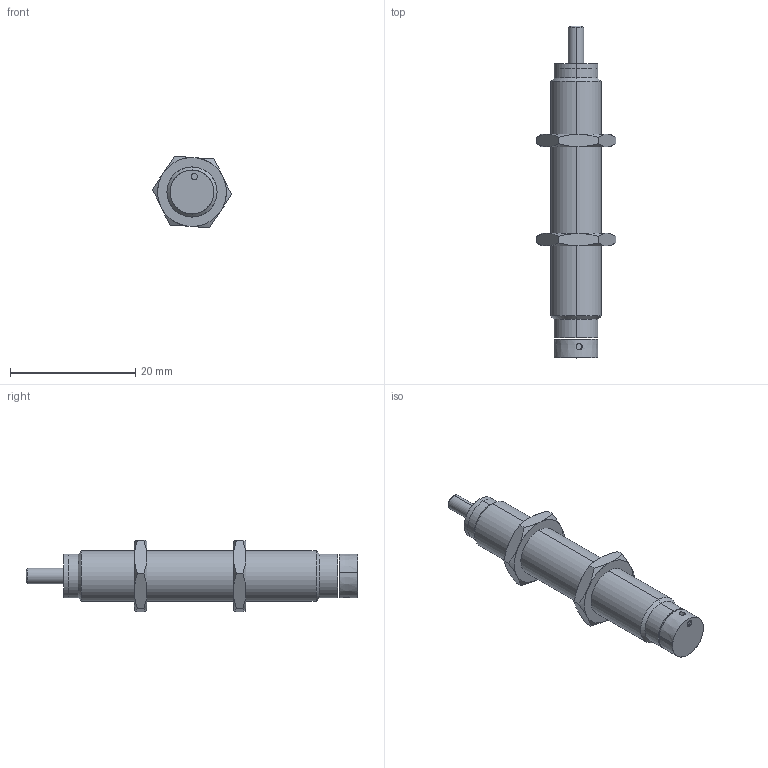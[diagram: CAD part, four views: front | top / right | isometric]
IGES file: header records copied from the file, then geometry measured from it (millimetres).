
Start section: SolidWorks IGES file using analytic representation for surfaces
Bounding box: 12.67 x 53 x 11.41 mm (x, y, z)
Surface area: 1885.4 mm2 (no closed solid volume)
Topology: 0 solids, 0 shells, 74 faces, 1168 edges, 1168 vertices
Faces by surface type: revolution 50, bspline 24
